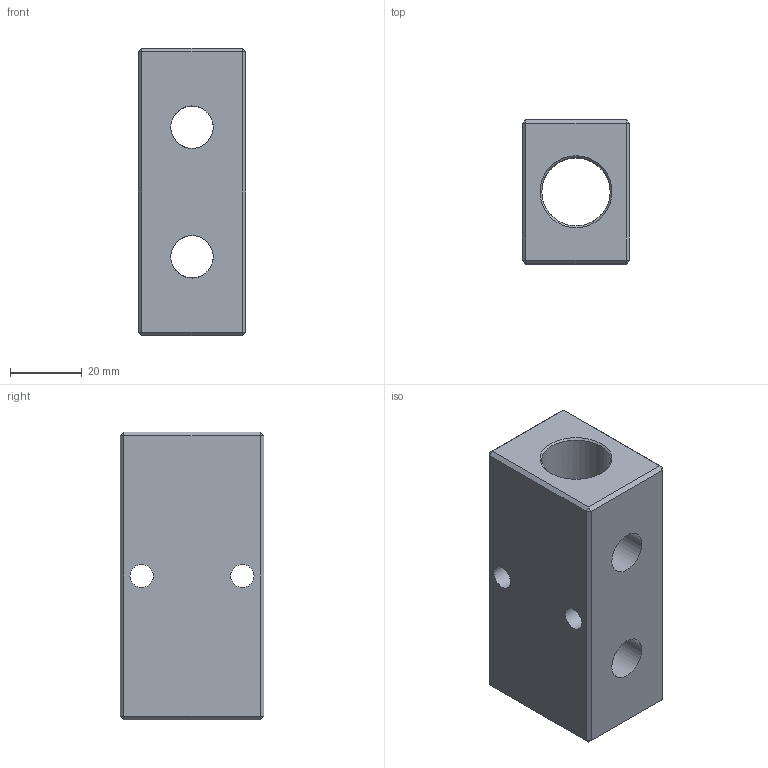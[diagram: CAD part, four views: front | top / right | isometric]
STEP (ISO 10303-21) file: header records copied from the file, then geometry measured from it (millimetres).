
FILE_DESCRIPTION(/* description */ (''),/* implementation_level */ '2;1');
FILE_NAME(/* name */ 'BXH88 2B4 04B2.stp',/* time_stamp */ '2024-11-15T14:31:09+01:00',/* author */ ('freju'),/* organization */ (''),/* preprocessor_version */ 'ST-DEVELOPER v20',/* originating_system */ 'Autodesk Inventor 2025',/* authorisation */ '');
FILE_SCHEMA (('AUTOMOTIVE_DESIGN { 1 0 10303 214 3 1 1 }'));
Length unit declared in the file: millimetre
Products named in the file (1): BXH87 2B4 02B2
Bounding box: 30 x 40 x 80 mm (x, y, z)
Volume: 66202.7 mm3; surface area: 19295.7 mm2
Topology: 1 solids, 1 shells, 37 faces, 80 edges, 45 vertices
Faces by surface type: plane 26, cylinder 7, cone 4
Full cylindrical faces by diameter (mm): 6.5 x2, 11.8 x4, 19 x1
Entity records: 1166 total; most frequent: CARTESIAN_POINT 295, DIRECTION 169, ORIENTED_EDGE 160, EDGE_CURVE 80, LINE 59, VECTOR 59, AXIS2_PLACEMENT_3D 55, EDGE_LOOP 51
